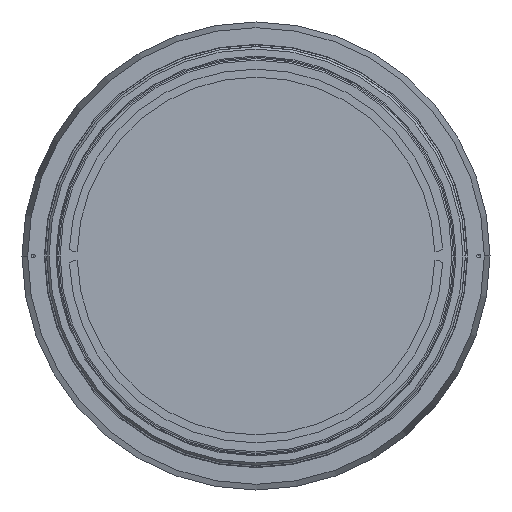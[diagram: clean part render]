
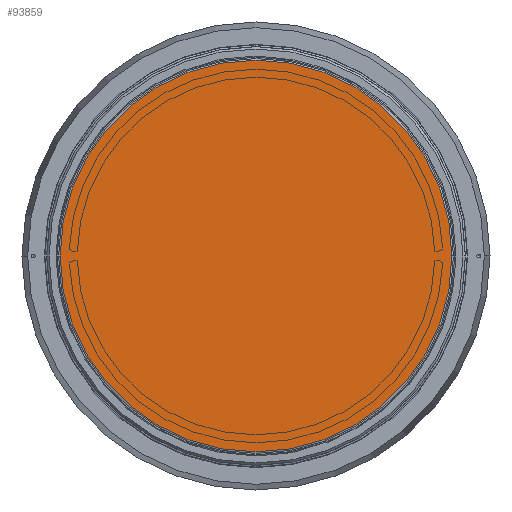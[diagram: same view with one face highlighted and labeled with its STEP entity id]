
A CAD part, front view. The second image highlights one B-rep face of the part: STEP entity #93859.
In plain terms, the highlighted planar face has unit normal (0, -1, 0).
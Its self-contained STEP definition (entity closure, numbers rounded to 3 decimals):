
#3817 = FACE_OUTER_BOUND ( 'NONE', #43846, .T. ) ;
#6260 = DIRECTION ( 'NONE',  ( 0., 0., -1. ) ) ;
#8605 = ORIENTED_EDGE ( 'NONE', *, *, #23076, .T. ) ;
#16119 = CIRCLE ( 'NONE', #114884, 514.616 ) ;
#23076 = EDGE_CURVE ( 'NONE', #53873, #29752, #16119, .T. ) ;
#29752 = VERTEX_POINT ( 'NONE', #61891 ) ;
#41549 = DIRECTION ( 'NONE',  ( 0., -1., 0. ) ) ;
#43846 = EDGE_LOOP ( 'NONE', ( #115908, #8605 ) ) ;
#53873 = VERTEX_POINT ( 'NONE', #64905 ) ;
#59053 = CARTESIAN_POINT ( 'NONE',  ( 0., -1209., 0. ) ) ;
#61891 = CARTESIAN_POINT ( 'NONE',  ( 0., -1209., -514.616 ) ) ;
#64905 = CARTESIAN_POINT ( 'NONE',  ( 0., -1209., 514.616 ) ) ;
#69372 = DIRECTION ( 'NONE',  ( 0., -1., 0. ) ) ;
#69674 = DIRECTION ( 'NONE',  ( 0., 0., -1. ) ) ;
#72106 = AXIS2_PLACEMENT_3D ( 'NONE', #104630, #41549, #115288 ) ;
#76466 = CIRCLE ( 'NONE', #72106, 514.616 ) ;
#79821 = PLANE ( 'NONE',  #128470 ) ;
#93859 = ADVANCED_FACE ( 'NONE', ( #3817 ), #79821, .T. ) ;
#97756 = EDGE_CURVE ( 'NONE', #29752, #53873, #76466, .T. ) ;
#104630 = CARTESIAN_POINT ( 'NONE',  ( 0., -1209., 0. ) ) ;
#114884 = AXIS2_PLACEMENT_3D ( 'NONE', #132367, #69372, #6260 ) ;
#115288 = DIRECTION ( 'NONE',  ( 0., 0., -1. ) ) ;
#115908 = ORIENTED_EDGE ( 'NONE', *, *, #97756, .T. ) ;
#128470 = AXIS2_PLACEMENT_3D ( 'NONE', #59053, #132693, #69674 ) ;
#132367 = CARTESIAN_POINT ( 'NONE',  ( 0., -1209., 0. ) ) ;
#132693 = DIRECTION ( 'NONE',  ( 0., -1., 0. ) ) ;
